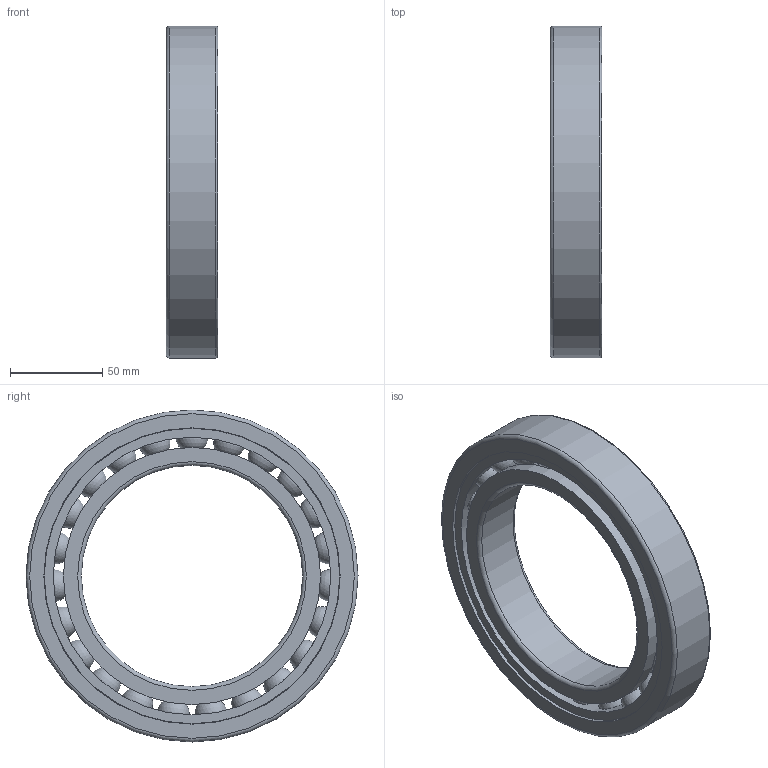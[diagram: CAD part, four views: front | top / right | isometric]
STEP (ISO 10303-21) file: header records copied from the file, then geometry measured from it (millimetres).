
FILE_DESCRIPTION(/* description */ (''),/* implementation_level */ '2;1');
FILE_NAME(/* name */ 'S_6024_TA.step',/* time_stamp */ '2013-03-06T14:46:14+01:00',/* author */ ('Marian'),/* organization */ ('GMN'),/* preprocessor_version */ 'ST-DEVELOPER v11',/* originating_system */ 'SIEMENS UGS NX 6.0',/* authorisation */ '');
FILE_SCHEMA (('CONFIG_CONTROL_DESIGN'));
Length unit declared in the file: millimetre
Products named in the file (1): S_6024_TA
Bounding box: 28 x 180 x 180 mm (x, y, z)
Volume: 302897 mm3; surface area: 115767.4 mm2
Topology: 26 solids, 26 shells, 66 faces, 172 edges, 112 vertices
Faces by surface type: cylinder 30, sphere 23, torus 6, plane 6, cone 1
Full cylindrical faces by diameter (mm): 17.662 x23, 120 x1, 139.4 x2, 150.422 x1, 160.2 x1, 160.6 x1, 180 x1
Entity records: 2200 total; most frequent: CARTESIAN_POINT 1004, DIRECTION 174, FACE_BOUND 155, EDGE_LOOP 132, ORIENTED_EDGE 132, VERTEX_POINT 89, AXIS2_PLACEMENT_3D 87, EDGE_CURVE 66
